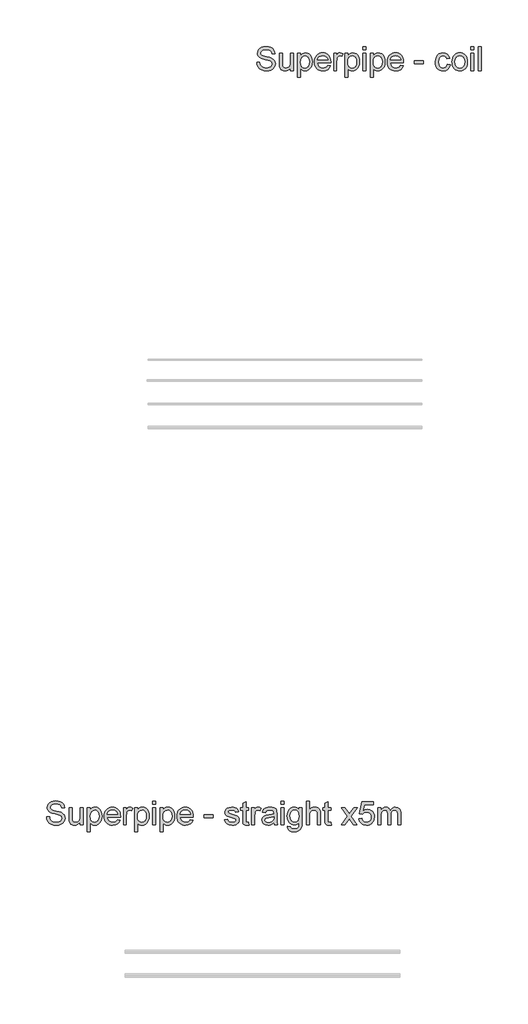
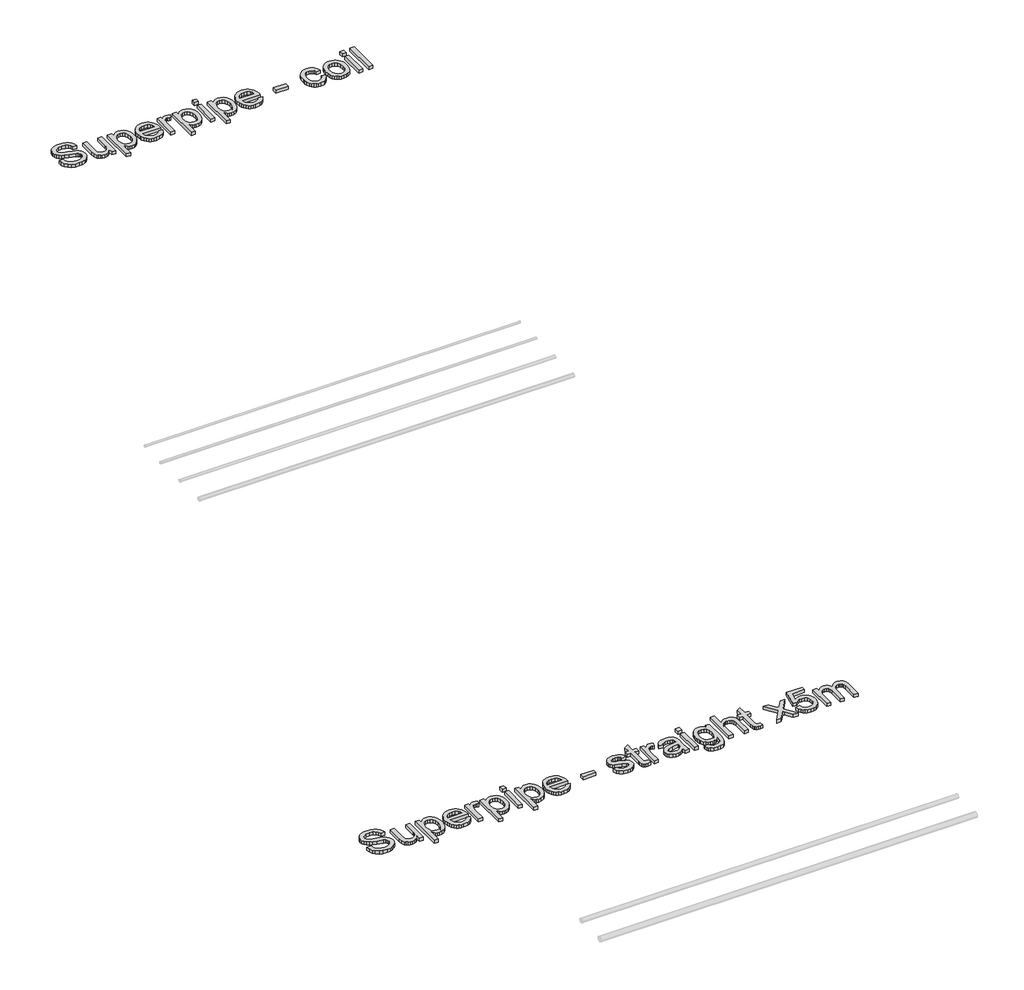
# One storey, part 12 of 26: 2 proxies.
"""IFC4 building model written with IfcOpenShell, lengths in millimetres."""

from ifc_helpers import new_model, si_unit, origin, origin_with_axes, place, context, project, spatial, polyline, outline, extrude, element, save

model = new_model("IFC4")

# Units and contexts
model_context = context("Model", 3, world=origin())
ifc_project = project(units=[si_unit("LENGTHUNIT", "METRE", prefix="MILLI")], contexts=[model_context])

# Site, building, storey
site = spatial("IfcSite", under=ifc_project)
building = spatial("IfcBuilding", under=site)
storey = spatial("IfcBuildingStorey", under=building, Name="Superpipe UFH", Elevation=0.0)

# Proxies
placement = place(None, origin())
element("IfcBuildingElementProxy", 1, Name="600mm Arial", ObjectType="600mm Arial", at=placement, inside=storey, context=model_context, shape_type="SweptSolid", body=[
    extrude(outline(polyline([(-3595.9258558, 23478.4252477), (-3558.2547395, 23478.4252477), (-3553.932126, 23457.5203533), (-3546.1146336, 23440.7173432), (-3533.9193455, 23427.3816208), (-3516.4633448, 23416.8785899), (-3495.1261891, 23410.0635759), (-3471.2874358, 23407.7919046), (-3450.299768, 23409.5117529), (-3431.9240623, 23414.6712979), (-3417.0340386, 23422.8382782), (-3406.5034165, 23433.5804325), (-3400.2402255, 23445.9136764), (-3398.1524952, 23458.8539255), (-3399.7159937, 23471.4630809), (-3404.4064891, 23482.361585), (-3413.9346328, 23491.6598025), (-3430.011076, 23499.4680978), (-3484.8622814, 23513.8522838), (-3520.8687317, 23523.3712304), (-3543.9073417, 23532.4303246), (-3562.6601264, 23545.1038593), (-3575.9498634, 23560.4629326), (-3583.8685234, 23578.1764507), (-3586.5080767, 23597.9133197), (-3583.243124, 23619.9770424), (-3573.4482659, 23640.550843), (-3557.3810197, 23657.9884495), (-3535.298903, 23670.6435902), (-3508.7930052, 23678.3415209), (-3479.4544161, 23680.9074978), (-3447.6694117, 23678.2219593), (-3419.8575329, 23670.1653436), (-3397.012061, 23656.9031976), (-3380.1262774, 23638.6010684), (-3369.4393054, 23616.39939), (-3365.1902684, 23591.4385966), (-3402.8613847, 23591.4385966), (-3409.7775662, 23613.9161865), (-3424.1985404, 23630.1397825), (-3446.7313126, 23639.9622318), (-3477.9828881, 23643.2363815), (-3509.9702276, 23639.99902), (-3531.9143886, 23630.2869353), (-3544.6063175, 23615.9947198), (-3548.8369604, 23599.0169657), (-3545.8387221, 23584.5408092), (-3536.8440074, 23572.897344), (-3515.580428, 23562.4862836), (-3475.3341378, 23551.8544939), (-3433.8002605, 23541.7561331), (-3408.6739202, 23532.9453594), (-3387.1988088, 23519.2785432), (-3372.2168145, 23502.4111538), (-3363.4152378, 23482.5271319), (-3360.4813789, 23459.8104187), (-3363.8566962, 23436.5878678), (-3373.9826481, 23414.7448743), (-3390.4453674, 23395.9461044), (-3412.8309868, 23381.8562239), (-3439.7507518, 23373.0546472), (-3469.8159078, 23370.1207883), (-3506.723669, 23373.2845735), (-3537.1015248, 23382.7759289), (-3561.298963, 23398.6316429), (-3579.6654716, 23420.8885036), (-3591.4560895, 23448.0014067), (-3595.9258558, 23478.4252477)])), origin_with_axes(), (0.0, 0.0, 1.0), 30.0),
    extrude(outline(polyline([(-3167.4169078, 23374.8296778), (-3167.4169078, 23412.8686761), (-3181.0469357, 23394.1664752), (-3196.9210438, 23380.8077603), (-3215.0392321, 23372.7925313), (-3235.4015005, 23370.1207883), (-3253.749615, 23371.9969865), (-3270.8285366, 23377.625581), (-3285.1575404, 23386.0868669), (-3295.2559011, 23396.4611392), (-3306.476302, 23424.1994416), (-3308.6835939, 23459.2218075), (-3308.6835939, 23596.1474861), (-3271.0124776, 23596.1474861), (-3271.0124776, 23476.9537197), (-3268.7316093, 23438.5468394), (-3263.2409705, 23425.7353489), (-3253.8323885, 23415.9956731), (-3241.1312626, 23409.8428467), (-3225.7629922, 23407.7919046), (-3209.5118051, 23409.888832), (-3194.3090816, 23416.1796141), (-3181.7735027, 23426.0848368), (-3173.5237489, 23439.025086), (-3168.9436181, 23456.7478011), (-3167.4169078, 23481.0004216), (-3167.4169078, 23596.1474861), (-3129.7457915, 23596.1474861), (-3129.7457915, 23374.8296778), (-3167.4169078, 23374.8296778)])), origin_with_axes(), (0.0, 0.0, 1.0), 30.0),
    extrude(outline(polyline([(-3077.9480066, 23290.0696661), (-3077.9480066, 23596.1474861), (-3040.2768903, 23596.1474861), (-3040.2768903, 23559.2121338), (-3027.9896316, 23577.4314896), (-3014.230845, 23590.4453152), (-2998.19119, 23598.2536106), (-2979.0613263, 23600.8563757), (-2953.5854981, 23597.2143439), (-2931.3102433, 23586.2882487), (-2913.1736609, 23568.7402775), (-2900.1138501, 23545.232618), (-2892.2227813, 23517.4759215), (-2889.592425, 23487.1808392), (-2892.5630722, 23454.9635734), (-2901.4750135, 23426.1492162), (-2916.0431405, 23402.2000983), (-2935.9823446, 23384.5785507), (-2959.2048956, 23373.7352289), (-2983.623063, 23370.1207883), (-3000.9411079, 23372.5396124), (-3016.4013488, 23379.7960848), (-3029.6359036, 23390.7497712), (-3040.2768903, 23404.2602375), (-3040.2768903, 23290.0696661), (-3077.9480066, 23290.0696661)]), holes=[polyline([(-3040.2768903, 23483.7227484), (-3036.2025972, 23449.9511813), (-3023.9797179, 23426.3331572), (-3005.9443031, 23412.4272177), (-2984.4324034, 23407.7919046), (-2962.5710158, 23412.5927646), (-2944.0757485, 23426.9953448), (-2931.4665931, 23451.4778915), (-2927.2635413, 23486.5186516), (-2931.3654256, 23520.1062777), (-2943.6710783, 23544.0553956), (-2961.678902, 23558.4027934), (-2982.887299, 23563.1852594), (-3004.1784695, 23558.0992908), (-3022.8760719, 23542.841385), (-3035.9266857, 23517.8897887), (-3040.2768903, 23483.7227484)])]), origin_with_axes(), (0.0, 0.0, 1.0), 30.0),
    extrude(outline(polyline([(-2692.2605228, 23440.7541314), (-2655.3251705, 23436.0452418), (-2668.6333017, 23408.2149689), (-2689.8692899, 23387.4112421), (-2718.5548884, 23374.4434017), (-2754.2118508, 23370.1207883), (-2777.5861531, 23371.9854902), (-2798.4128725, 23377.5795958), (-2816.6920092, 23386.9031051), (-2832.423563, 23399.9560181), (-2845.0741051, 23416.3750514), (-2854.1102066, 23435.7969215), (-2859.5318675, 23458.2216284), (-2861.3390878, 23483.649172), (-2859.5134734, 23509.9389391), (-2854.0366302, 23533.1109063), (-2844.9085582, 23553.1650735), (-2832.1292574, 23570.1014409), (-2816.4390903, 23583.5567249), (-2798.5784194, 23593.167642), (-2778.5472448, 23598.9341922), (-2756.3455664, 23600.8563757), (-2734.8589586, 23598.9387908), (-2715.4278915, 23593.1860361), (-2698.052365, 23583.5981116), (-2682.7323792, 23570.1750173), (-2670.2266906, 23553.2754381), (-2661.2940559, 23533.2580591), (-2655.9344751, 23510.1228801), (-2654.1479481, 23483.8699012), (-2654.3686773, 23473.7163581), (-2823.6679715, 23473.7163581), (-2817.1472631, 23445.5182032), (-2801.999722, 23424.7880528), (-2780.1383344, 23412.0409416), (-2753.4760868, 23407.7919046), (-2733.4265181, 23409.7600733), (-2716.5407345, 23415.6645793), (-2702.8187361, 23425.8733047), (-2692.2605228, 23440.7541314)]), holes=[polyline([(-2823.6679715, 23511.3874744), (-2691.8190644, 23511.3874744), (-2696.9142301, 23531.2898904), (-2706.9022262, 23545.5269236), (-2728.8647813, 23558.7706754), (-2756.4927192, 23563.1852594), (-2781.8857739, 23559.6627893), (-2802.8826388, 23549.095379), (-2817.4783569, 23532.6234626), (-2823.6679715, 23511.3874744)])]), origin_with_axes(), (0.0, 0.0, 1.0), 30.0),
    extrude(outline(polyline([(-2616.4768318, 23374.8296778), (-2616.4768318, 23596.1474861), (-2583.5146051, 23596.1474861), (-2583.5146051, 23563.4059886), (-2571.337711, 23582.3886995), (-2560.1173102, 23593.5723122), (-2548.8601211, 23599.0353598), (-2536.5728625, 23600.8563757), (-2517.8108807, 23597.9501079), (-2498.7545934, 23589.2313046), (-2511.3361576, 23555.4597375), (-2524.5799094, 23561.2538789), (-2537.8236613, 23563.1852594), (-2549.0716533, 23561.3274553), (-2559.1240288, 23555.7540431), (-2567.2450238, 23546.888087), (-2572.6988744, 23535.1526513), (-2577.2790052, 23514.1098012), (-2578.8057155, 23491.1539647), (-2578.8057155, 23374.8296778), (-2616.4768318, 23374.8296778)])), origin_with_axes(), (0.0, 0.0, 1.0), 30.0),
    extrude(outline(polyline([(-2475.2101457, 23290.0696661), (-2475.2101457, 23596.1474861), (-2437.5390294, 23596.1474861), (-2437.5390294, 23559.2121338), (-2425.2517707, 23577.4314896), (-2411.4929841, 23590.4453152), (-2395.4533291, 23598.2536106), (-2376.3234654, 23600.8563757), (-2350.8476372, 23597.2143439), (-2328.5723824, 23586.2882487), (-2310.4358, 23568.7402775), (-2297.3759892, 23545.232618), (-2289.4849204, 23517.4759215), (-2286.8545641, 23487.1808392), (-2289.8252113, 23454.9635734), (-2298.7371526, 23426.1492162), (-2313.3052796, 23402.2000983), (-2333.2444837, 23384.5785507), (-2356.4670347, 23373.7352289), (-2380.8852021, 23370.1207883), (-2398.203247, 23372.5396124), (-2413.6634879, 23379.7960848), (-2426.8980427, 23390.7497712), (-2437.5390294, 23404.2602375), (-2437.5390294, 23290.0696661), (-2475.2101457, 23290.0696661)]), holes=[polyline([(-2437.5390294, 23483.7227484), (-2433.4647363, 23449.9511813), (-2421.241857, 23426.3331572), (-2403.2064422, 23412.4272177), (-2381.6945425, 23407.7919046), (-2359.8331549, 23412.5927646), (-2341.3378876, 23426.9953448), (-2328.7287322, 23451.4778915), (-2324.5256804, 23486.5186516), (-2328.6275647, 23520.1062777), (-2340.9332174, 23544.0553956), (-2358.9410411, 23558.4027934), (-2380.1494381, 23563.1852594), (-2401.4406086, 23558.0992908), (-2420.138211, 23542.841385), (-2433.1888248, 23517.8897887), (-2437.5390294, 23483.7227484)])]), origin_with_axes(), (0.0, 0.0, 1.0), 30.0),
    extrude(outline(polyline([(-2244.4745583, 23374.8296778), (-2244.4745583, 23596.1474861), (-2206.803442, 23596.1474861), (-2206.803442, 23374.8296778), (-2244.4745583, 23374.8296778)])), origin_with_axes(), (0.0, 0.0, 1.0), 30.0),
    extrude(outline(polyline([(-2244.4745583, 23638.527492), (-2244.4745583, 23676.1986083), (-2206.803442, 23676.1986083), (-2206.803442, 23638.527492), (-2244.4745583, 23638.527492)])), origin_with_axes(), (0.0, 0.0, 1.0), 30.0),
    extrude(outline(polyline([(-2150.2967675, 23290.0696661), (-2150.2967675, 23596.1474861), (-2112.6256512, 23596.1474861), (-2112.6256512, 23559.2121338), (-2100.3383926, 23577.4314896), (-2086.579606, 23590.4453152), (-2070.539951, 23598.2536106), (-2051.4100872, 23600.8563757), (-2025.9342591, 23597.2143439), (-2003.6590043, 23586.2882487), (-1985.5224219, 23568.7402775), (-1972.4626111, 23545.232618), (-1964.5715423, 23517.4759215), (-1961.941186, 23487.1808392), (-1964.9118331, 23454.9635734), (-1973.8237744, 23426.1492162), (-1988.3919015, 23402.2000983), (-2008.3311056, 23384.5785507), (-2031.5536565, 23373.7352289), (-2055.971824, 23370.1207883), (-2073.2898689, 23372.5396124), (-2088.7501097, 23379.7960848), (-2101.9846645, 23390.7497712), (-2112.6256512, 23404.2602375), (-2112.6256512, 23290.0696661), (-2150.2967675, 23290.0696661)]), holes=[polyline([(-2112.6256512, 23483.7227484), (-2108.5513581, 23449.9511813), (-2096.3284788, 23426.3331572), (-2078.293064, 23412.4272177), (-2056.7811644, 23407.7919046), (-2034.9197768, 23412.5927646), (-2016.4245095, 23426.9953448), (-2003.8153541, 23451.4778915), (-1999.6123023, 23486.5186516), (-2003.7141866, 23520.1062777), (-2016.0198393, 23544.0553956), (-2034.027663, 23558.4027934), (-2055.23606, 23563.1852594), (-2076.5272305, 23558.0992908), (-2095.2248329, 23542.841385), (-2108.2754466, 23517.8897887), (-2112.6256512, 23483.7227484)])]), origin_with_axes(), (0.0, 0.0, 1.0), 30.0),
    extrude(outline(polyline([(-1764.6092838, 23440.7541314), (-1727.6739315, 23436.0452418), (-1740.9820626, 23408.2149689), (-1762.2180508, 23387.4112421), (-1790.9036494, 23374.4434017), (-1826.5606118, 23370.1207883), (-1849.934914, 23371.9854902), (-1870.7616335, 23377.5795958), (-1889.0407701, 23386.9031051), (-1904.772324, 23399.9560181), (-1917.4228661, 23416.3750514), (-1926.4589676, 23435.7969215), (-1931.8806285, 23458.2216284), (-1933.6878488, 23483.649172), (-1931.8622344, 23509.9389391), (-1926.3853912, 23533.1109063), (-1917.2573192, 23553.1650735), (-1904.4780184, 23570.1014409), (-1888.7878513, 23583.5567249), (-1870.9271804, 23593.167642), (-1850.8960058, 23598.9341922), (-1828.6943273, 23600.8563757), (-1807.2077196, 23598.9387908), (-1787.7766524, 23593.1860361), (-1770.401126, 23583.5981116), (-1755.0811401, 23570.1750173), (-1742.5754515, 23553.2754381), (-1733.6428168, 23533.2580591), (-1728.283236, 23510.1228801), (-1726.4967091, 23483.8699012), (-1726.7174383, 23473.7163581), (-1896.0167325, 23473.7163581), (-1889.4960241, 23445.5182032), (-1874.348483, 23424.7880528), (-1852.4870954, 23412.0409416), (-1825.8248478, 23407.7919046), (-1805.7752791, 23409.7600733), (-1788.8894955, 23415.6645793), (-1775.1674971, 23425.8733047), (-1764.6092838, 23440.7541314)]), holes=[polyline([(-1896.0167325, 23511.3874744), (-1764.1678254, 23511.3874744), (-1769.262991, 23531.2898904), (-1779.2509872, 23545.5269236), (-1801.2135423, 23558.7706754), (-1828.8414801, 23563.1852594), (-1854.2345349, 23559.6627893), (-1875.2313997, 23549.095379), (-1889.8271179, 23532.6234626), (-1896.0167325, 23511.3874744)])]), origin_with_axes(), (0.0, 0.0, 1.0), 30.0),
    extrude(outline(polyline([(-1589.9389125, 23464.2985791), (-1589.9389125, 23501.9696954), (-1472.216674, 23501.9696954), (-1472.216674, 23464.2985791), (-1589.9389125, 23464.2985791)])), origin_with_axes(), (0.0, 0.0, 1.0), 30.0),
    extrude(outline(polyline([(-1170.8477436, 23454.8808), (-1133.1766273, 23450.1719104), (-1143.6796582, 23416.6670577), (-1163.4165273, 23391.3475794), (-1190.5294303, 23375.4274861), (-1223.1605633, 23370.1207883), (-1244.2884861, 23371.9716946), (-1263.2321096, 23377.5244135), (-1279.9914338, 23386.7789449), (-1294.5664586, 23399.7352889), (-1306.3639743, 23416.1497237), (-1314.7907712, 23435.7785274), (-1319.8468494, 23458.6217), (-1321.5322088, 23484.6792416), (-1318.6535322, 23518.2024884), (-1310.0175024, 23547.255969), (-1295.4861635, 23570.7176432), (-1274.92156, 23587.465471), (-1250.3194516, 23597.5086495), (-1223.6755981, 23600.8563757), (-1191.8446084, 23596.2578507), (-1166.3963714, 23582.4622759), (-1148.1402274, 23560.2054152), (-1137.8855168, 23530.2230326), (-1175.5566331, 23525.5141431), (-1182.3900412, 23541.9492712), (-1193.0310279, 23553.7306921), (-1206.8909821, 23560.8216175), (-1223.3812925, 23563.1852594), (-1247.7258835, 23558.5315521), (-1267.0488853, 23544.5704304), (-1279.6580407, 23520.5477361), (-1283.8610925, 23485.7093112), (-1279.7500112, 23450.4018367), (-1267.4167673, 23426.296369), (-1248.4432534, 23412.4180207), (-1224.4113621, 23407.7919046), (-1204.9044193, 23410.6797783), (-1188.9107495, 23419.3433993), (-1177.2764814, 23434.0034968), (-1170.8477436, 23454.8808)])), origin_with_axes(), (0.0, 0.0, 1.0), 30.0),
    extrude(outline(polyline([(-1109.6321796, 23485.488582), (-1107.595033, 23514.1511879), (-1101.4835934, 23538.8498654), (-1091.2978606, 23559.5846143), (-1077.0378348, 23576.3554348), (-1062.6812399, 23587.0745964), (-1046.834723, 23594.7311405), (-1029.498284, 23599.3250669), (-1010.6719229, 23600.8563757), (-989.8888894, 23598.9916738), (-971.0970172, 23593.3975682), (-954.2963064, 23584.0740589), (-939.4867568, 23571.0211459), (-927.399534, 23554.6802875), (-918.7658034, 23535.4929422), (-913.5855651, 23513.4591099), (-911.858819, 23488.5787907), (-914.9122395, 23450.5213983), (-924.0725012, 23421.5506912), (-939.0728896, 23399.8548506), (-959.6466901, 23383.6220575), (-984.0832517, 23373.4961056), (-1010.6719229, 23370.1207883), (-1031.758459, 23371.9785924), (-1050.7250751, 23377.5520046), (-1067.5717712, 23386.841025), (-1082.2985473, 23399.8456535), (-1094.2570114, 23416.345161), (-1102.7987715, 23436.1188182), (-1107.9238276, 23459.1666252), (-1109.6321796, 23485.488582)]), holes=[polyline([(-1071.9610633, 23485.5621584), (-1067.6016616, 23451.4686945), (-1054.5234567, 23427.1792858), (-1034.84177, 23412.6387499), (-1010.6719229, 23407.7919046), (-986.6124404, 23412.666341), (-966.9675418, 23427.2896503), (-953.8893369, 23451.9009558), (-949.5299353, 23486.7393808), (-953.9169281, 23519.8395633), (-967.0779064, 23543.7978782), (-986.7503961, 23558.3384141), (-1010.6719229, 23563.1852594), (-1034.84177, 23558.3568082), (-1054.5234567, 23543.8714546), (-1067.6016616, 23519.6372282), (-1071.9610633, 23485.5621584)])]), origin_with_axes(), (0.0, 0.0, 1.0), 30.0),
    extrude(outline(polyline([(-869.4788131, 23374.8296778), (-869.4788131, 23596.1474861), (-831.8076968, 23596.1474861), (-831.8076968, 23374.8296778), (-869.4788131, 23374.8296778)])), origin_with_axes(), (0.0, 0.0, 1.0), 30.0),
    extrude(outline(polyline([(-869.4788131, 23638.527492), (-869.4788131, 23676.1986083), (-831.8076968, 23676.1986083), (-831.8076968, 23638.527492), (-869.4788131, 23638.527492)])), origin_with_axes(), (0.0, 0.0, 1.0), 30.0),
    extrude(outline(polyline([(-775.3010224, 23374.8296778), (-775.3010224, 23676.1986083), (-737.6299061, 23676.1986083), (-737.6299061, 23374.8296778), (-775.3010224, 23374.8296778)])), origin_with_axes(), (0.0, 0.0, 1.0), 30.0),
])
element("IfcBuildingElementProxy", 2, Name="600mm Arial", ObjectType="600mm Arial", at=placement, inside=storey, context=model_context, shape_type="SweptSolid", body=[
    extrude(outline(polyline([(-6274.1416083, 13880.9149134), (-6236.470492, 13880.9149134), (-6232.1478785, 13860.010019), (-6224.3303861, 13843.2070089), (-6212.135098, 13829.8712866), (-6194.6790973, 13819.3682556), (-6173.3419416, 13812.5532417), (-6149.5031883, 13810.2815703), (-6128.5155205, 13812.0014187), (-6110.1398148, 13817.1609636), (-6095.2497911, 13825.3279439), (-6084.719169, 13836.0700982), (-6078.455978, 13848.4033421), (-6076.3682477, 13861.3435913), (-6077.9317462, 13873.9527466), (-6082.6222416, 13884.8512508), (-6092.1503853, 13894.1494682), (-6108.2268285, 13901.9577635), (-6163.0780339, 13916.3419495), (-6199.0844842, 13925.8608962), (-6222.1230942, 13934.9199903), (-6240.8758789, 13947.593525), (-6254.165616, 13962.9525983), (-6262.0842759, 13980.6661164), (-6264.7238292, 14000.4029854), (-6261.4588765, 14022.4667081), (-6251.6640184, 14043.0405087), (-6235.5967722, 14060.4781153), (-6213.5146555, 14073.1332559), (-6187.0087577, 14080.8311866), (-6157.6701686, 14083.3971636), (-6125.8851642, 14080.711625), (-6098.0732854, 14072.6550093), (-6075.2278135, 14059.3928634), (-6058.3420299, 14041.0907341), (-6047.655058, 14018.8890557), (-6043.4060209, 13993.9282623), (-6081.0771372, 13993.9282623), (-6087.9933187, 14016.4058522), (-6102.4142929, 14032.6294482), (-6124.9470651, 14042.4518975), (-6156.1986406, 14045.7260472), (-6188.1859801, 14042.4886857), (-6210.1301411, 14032.776601), (-6222.82207, 14018.4843855), (-6227.0527129, 14001.5066314), (-6224.0544746, 13987.0304749), (-6215.0597599, 13975.3870098), (-6193.7961805, 13964.9759493), (-6153.5498903, 13954.3441596), (-6112.016013, 13944.2457989), (-6086.8896727, 13935.4350251), (-6065.4145613, 13921.768209), (-6050.432567, 13904.9008195), (-6041.6309903, 13885.0167977), (-6038.6971314, 13862.3000845), (-6042.0724487, 13839.0775335), (-6052.1984006, 13817.23454), (-6068.6611199, 13798.4357701), (-6091.0467393, 13784.3458897), (-6117.9665043, 13775.5443129), (-6148.0316603, 13772.610454), (-6184.9394215, 13775.7742392), (-6215.3172773, 13785.2655947), (-6239.5147155, 13801.1213087), (-6257.8812241, 13823.3781694), (-6269.671842, 13850.4910724), (-6274.1416083, 13880.9149134)])), origin_with_axes(), (0.0, 0.0, 1.0), 30.0),
    extrude(outline(polyline([(-5845.6326603, 13777.3193436), (-5845.6326603, 13815.3583419), (-5859.2626882, 13796.6561409), (-5875.1367963, 13783.297426), (-5893.2549846, 13775.282197), (-5913.617253, 13772.610454), (-5931.9653675, 13774.4866522), (-5949.0442892, 13780.1152467), (-5963.3732929, 13788.5765326), (-5973.4716536, 13798.9508049), (-5984.6920545, 13826.6891073), (-5986.8993465, 13861.7114733), (-5986.8993465, 13998.6371519), (-5949.2282301, 13998.6371519), (-5949.2282301, 13879.4433854), (-5946.9473618, 13841.0365051), (-5941.456723, 13828.2250146), (-5932.048141, 13818.4853388), (-5919.3470151, 13812.3325125), (-5903.9787447, 13810.2815703), (-5887.7275576, 13812.3784977), (-5872.5248342, 13818.6692798), (-5859.9892552, 13828.5745025), (-5851.7395014, 13841.5147517), (-5847.1593706, 13859.2374668), (-5845.6326603, 13883.4900874), (-5845.6326603, 13998.6371519), (-5807.961544, 13998.6371519), (-5807.961544, 13777.3193436), (-5845.6326603, 13777.3193436)])), origin_with_axes(), (0.0, 0.0, 1.0), 30.0),
    extrude(outline(polyline([(-5756.1637591, 13692.5593319), (-5756.1637591, 13998.6371519), (-5718.4926428, 13998.6371519), (-5718.4926428, 13961.7017995), (-5706.2053841, 13979.9211554), (-5692.4465975, 13992.9349809), (-5676.4069425, 14000.7432763), (-5657.2770788, 14003.3460414), (-5631.8012506, 13999.7040096), (-5609.5259958, 13988.7779144), (-5591.3894134, 13971.2299432), (-5578.3296026, 13947.7222837), (-5570.4385338, 13919.9655872), (-5567.8081776, 13889.6705049), (-5570.7788247, 13857.4532392), (-5579.690766, 13828.6388819), (-5594.258893, 13804.689764), (-5614.1980971, 13787.0682164), (-5637.4206481, 13776.2248946), (-5661.8388155, 13772.610454), (-5679.1568604, 13775.0292781), (-5694.6171013, 13782.2857505), (-5707.8516561, 13793.2394369), (-5718.4926428, 13806.7499032), (-5718.4926428, 13692.5593319), (-5756.1637591, 13692.5593319)]), holes=[polyline([(-5718.4926428, 13886.2124141), (-5714.4183497, 13852.440847), (-5702.1954704, 13828.8228229), (-5684.1600556, 13814.9168835), (-5662.6481559, 13810.2815703), (-5640.7867683, 13815.0824304), (-5622.291501, 13829.4850105), (-5609.6823457, 13853.9675573), (-5605.4792939, 13889.0083173), (-5609.5811781, 13922.5959435), (-5621.8868308, 13946.5450613), (-5639.8946545, 13960.8924592), (-5661.1030515, 13965.6749251), (-5682.394222, 13960.5889565), (-5701.0918244, 13945.3310508), (-5714.1424382, 13920.3794544), (-5718.4926428, 13886.2124141)])]), origin_with_axes(), (0.0, 0.0, 1.0), 30.0),
    extrude(outline(polyline([(-5370.4762753, 13843.2437971), (-5333.540923, 13838.5349076), (-5346.8490542, 13810.7046346), (-5368.0850424, 13789.9009078), (-5396.7706409, 13776.9330675), (-5432.4276033, 13772.610454), (-5455.8019056, 13774.4751559), (-5476.628625, 13780.0692615), (-5494.9077617, 13789.3927708), (-5510.6393155, 13802.4456838), (-5523.2898576, 13818.8647171), (-5532.3259591, 13838.2865872), (-5537.74762, 13860.7112941), (-5539.5548403, 13886.1388377), (-5537.7292259, 13912.4286048), (-5532.2523827, 13935.600572), (-5523.1243107, 13955.6547393), (-5510.3450099, 13972.5911066), (-5494.6548428, 13986.0463906), (-5476.7941719, 13995.6573077), (-5456.7629973, 14001.423858), (-5434.5613189, 14003.3460414), (-5413.0747111, 14001.4284565), (-5393.643644, 13995.6757018), (-5376.2681175, 13986.0877773), (-5360.9481317, 13972.664683), (-5348.4424431, 13955.7651039), (-5339.5098084, 13935.7477248), (-5334.1502276, 13912.6125458), (-5332.3637006, 13886.3595669), (-5332.5844298, 13876.2060239), (-5501.883724, 13876.2060239), (-5495.3630157, 13848.0078689), (-5480.2154745, 13827.2777185), (-5458.3540869, 13814.5306074), (-5431.6918393, 13810.2815703), (-5411.6422706, 13812.249739), (-5394.756487, 13818.154245), (-5381.0344886, 13828.3629704), (-5370.4762753, 13843.2437971)]), holes=[polyline([(-5501.883724, 13913.8771402), (-5370.0348169, 13913.8771402), (-5375.1299826, 13933.7795561), (-5385.1179787, 13948.0165893), (-5407.0805339, 13961.2603412), (-5434.7084717, 13965.6749251), (-5460.1015264, 13962.152455), (-5481.0983913, 13951.5850447), (-5495.6941094, 13935.1131283), (-5501.883724, 13913.8771402)])]), origin_with_axes(), (0.0, 0.0, 1.0), 30.0),
    extrude(outline(polyline([(-5294.6925843, 13777.3193436), (-5294.6925843, 13998.6371519), (-5261.7303576, 13998.6371519), (-5261.7303576, 13965.8956543), (-5249.5534635, 13984.8783652), (-5238.3330627, 13996.0619779), (-5227.0758736, 14001.5250255), (-5214.788615, 14003.3460414), (-5196.0266332, 14000.4397736), (-5176.9703459, 13991.7209704), (-5189.5519101, 13957.9494032), (-5202.7956619, 13963.7435446), (-5216.0394138, 13965.6749251), (-5227.2874058, 13963.817121), (-5237.3397813, 13958.2437088), (-5245.4607763, 13949.3777527), (-5250.9146269, 13937.6423171), (-5255.4947577, 13916.5994669), (-5257.021468, 13893.6436304), (-5257.021468, 13777.3193436), (-5294.6925843, 13777.3193436)])), origin_with_axes(), (0.0, 0.0, 1.0), 30.0),
    extrude(outline(polyline([(-5153.4258982, 13692.5593319), (-5153.4258982, 13998.6371519), (-5115.7547819, 13998.6371519), (-5115.7547819, 13961.7017995), (-5103.4675232, 13979.9211554), (-5089.7087366, 13992.9349809), (-5073.6690816, 14000.7432763), (-5054.5392179, 14003.3460414), (-5029.0633897, 13999.7040096), (-5006.7881349, 13988.7779144), (-4988.6515525, 13971.2299432), (-4975.5917417, 13947.7222837), (-4967.7006729, 13919.9655872), (-4965.0703167, 13889.6705049), (-4968.0409638, 13857.4532392), (-4976.9529051, 13828.6388819), (-4991.5210321, 13804.689764), (-5011.4602362, 13787.0682164), (-5034.6827872, 13776.2248946), (-5059.1009546, 13772.610454), (-5076.4189995, 13775.0292781), (-5091.8792404, 13782.2857505), (-5105.1137952, 13793.2394369), (-5115.7547819, 13806.7499032), (-5115.7547819, 13692.5593319), (-5153.4258982, 13692.5593319)]), holes=[polyline([(-5115.7547819, 13886.2124141), (-5111.6804888, 13852.440847), (-5099.4576095, 13828.8228229), (-5081.4221947, 13814.9168835), (-5059.910295, 13810.2815703), (-5038.0489074, 13815.0824304), (-5019.5536401, 13829.4850105), (-5006.9444848, 13853.9675573), (-5002.741433, 13889.0083173), (-5006.8433172, 13922.5959435), (-5019.1489699, 13946.5450613), (-5037.1567936, 13960.8924592), (-5058.3651906, 13965.6749251), (-5079.6563611, 13960.5889565), (-5098.3539635, 13945.3310508), (-5111.4045773, 13920.3794544), (-5115.7547819, 13886.2124141)])]), origin_with_axes(), (0.0, 0.0, 1.0), 30.0),
    extrude(outline(polyline([(-4922.6903108, 13777.3193436), (-4922.6903108, 13998.6371519), (-4885.0191945, 13998.6371519), (-4885.0191945, 13777.3193436), (-4922.6903108, 13777.3193436)])), origin_with_axes(), (0.0, 0.0, 1.0), 30.0),
    extrude(outline(polyline([(-4922.6903108, 14041.0171577), (-4922.6903108, 14078.688274), (-4885.0191945, 14078.688274), (-4885.0191945, 14041.0171577), (-4922.6903108, 14041.0171577)])), origin_with_axes(), (0.0, 0.0, 1.0), 30.0),
    extrude(outline(polyline([(-4828.51252, 13692.5593319), (-4828.51252, 13998.6371519), (-4790.8414037, 13998.6371519), (-4790.8414037, 13961.7017995), (-4778.5541451, 13979.9211554), (-4764.7953585, 13992.9349809), (-4748.7557035, 14000.7432763), (-4729.6258397, 14003.3460414), (-4704.1500116, 13999.7040096), (-4681.8747568, 13988.7779144), (-4663.7381744, 13971.2299432), (-4650.6783636, 13947.7222837), (-4642.7872948, 13919.9655872), (-4640.1569385, 13889.6705049), (-4643.1275856, 13857.4532392), (-4652.039527, 13828.6388819), (-4666.607654, 13804.689764), (-4686.5468581, 13787.0682164), (-4709.7694091, 13776.2248946), (-4734.1875765, 13772.610454), (-4751.5056214, 13775.0292781), (-4766.9658623, 13782.2857505), (-4780.200417, 13793.2394369), (-4790.8414037, 13806.7499032), (-4790.8414037, 13692.5593319), (-4828.51252, 13692.5593319)]), holes=[polyline([(-4790.8414037, 13886.2124141), (-4786.7671106, 13852.440847), (-4774.5442314, 13828.8228229), (-4756.5088165, 13814.9168835), (-4734.9969169, 13810.2815703), (-4713.1355293, 13815.0824304), (-4694.640262, 13829.4850105), (-4682.0311066, 13853.9675573), (-4677.8280548, 13889.0083173), (-4681.9299391, 13922.5959435), (-4694.2355918, 13946.5450613), (-4712.2434155, 13960.8924592), (-4733.4518125, 13965.6749251), (-4754.742983, 13960.5889565), (-4773.4405854, 13945.3310508), (-4786.4911991, 13920.3794544), (-4790.8414037, 13886.2124141)])]), origin_with_axes(), (0.0, 0.0, 1.0), 30.0),
    extrude(outline(polyline([(-4442.8250363, 13843.2437971), (-4405.889684, 13838.5349076), (-4419.1978152, 13810.7046346), (-4440.4338033, 13789.9009078), (-4469.1194019, 13776.9330675), (-4504.7763643, 13772.610454), (-4528.1506666, 13774.4751559), (-4548.977386, 13780.0692615), (-4567.2565226, 13789.3927708), (-4582.9880765, 13802.4456838), (-4595.6386186, 13818.8647171), (-4604.6747201, 13838.2865872), (-4610.096381, 13860.7112941), (-4611.9036013, 13886.1388377), (-4610.0779869, 13912.4286048), (-4604.6011437, 13935.600572), (-4595.4730717, 13955.6547393), (-4582.6937709, 13972.5911066), (-4567.0036038, 13986.0463906), (-4549.1429329, 13995.6573077), (-4529.1117583, 14001.423858), (-4506.9100799, 14003.3460414), (-4485.4234721, 14001.4284565), (-4465.9924049, 13995.6757018), (-4448.6168785, 13986.0877773), (-4433.2968926, 13972.664683), (-4420.7912041, 13955.7651039), (-4411.8585694, 13935.7477248), (-4406.4989885, 13912.6125458), (-4404.7124616, 13886.3595669), (-4404.9331908, 13876.2060239), (-4574.232485, 13876.2060239), (-4567.7117766, 13848.0078689), (-4552.5642355, 13827.2777185), (-4530.7028479, 13814.5306074), (-4504.0406003, 13810.2815703), (-4483.9910316, 13812.249739), (-4467.105248, 13818.154245), (-4453.3832496, 13828.3629704), (-4442.8250363, 13843.2437971)]), holes=[polyline([(-4574.232485, 13913.8771402), (-4442.3835779, 13913.8771402), (-4447.4787435, 13933.7795561), (-4457.4667397, 13948.0165893), (-4479.4292948, 13961.2603412), (-4507.0572327, 13965.6749251), (-4532.4502874, 13962.152455), (-4553.4471522, 13951.5850447), (-4568.0428704, 13935.1131283), (-4574.232485, 13913.8771402)])]), origin_with_axes(), (0.0, 0.0, 1.0), 30.0),
    extrude(outline(polyline([(-4268.154665, 13866.7882448), (-4268.154665, 13904.4593611), (-4150.4324265, 13904.4593611), (-4150.4324265, 13866.7882448), (-4268.154665, 13866.7882448)])), origin_with_axes(), (0.0, 0.0, 1.0), 30.0),
    extrude(outline(polyline([(-4004.4568508, 13843.2437971), (-3966.7857345, 13847.9526866), (-3960.8444403, 13831.8394553), (-3949.348128, 13819.993655), (-3932.2232211, 13812.7095915), (-3909.3961433, 13810.2815703), (-3886.844977, 13812.5072564), (-3870.989263, 13819.1843146), (-3861.6082721, 13828.8596111), (-3858.4812752, 13840.0800119), (-3861.6266662, 13849.681732), (-3871.0628394, 13857.0025837), (-3909.8376017, 13867.744738), (-3966.5650053, 13886.1756259), (-3980.9216002, 13895.4370552), (-3991.3234636, 13907.6967227), (-3997.6418369, 13922.1728792), (-3999.7479613, 13938.0837755), (-3998.0557041, 13952.6794936), (-3992.9789326, 13966.1531717), (-3984.9774992, 13977.9713808), (-3974.5112564, 13987.600692), (-3950.5621386, 13998.7475165), (-3918.1517348, 14003.3460414), (-3893.6323998, 14001.4974344), (-3872.3136382, 13995.9516133), (-3855.1703372, 13987.2512041), (-3843.1773842, 13975.9388328), (-3835.2311331, 13961.1775677), (-3830.2279379, 13942.1304774), (-3867.8990542, 13937.4215879), (-3872.653929, 13949.2765852), (-3882.0625111, 13958.2069206), (-3896.2167708, 13963.807924), (-3915.2086788, 13965.6749251), (-3936.8401401, 13963.8906974), (-3951.2611143, 13958.5380144), (-3959.3729123, 13950.8124925), (-3962.076845, 13941.9097482), (-3957.5886847, 13930.9468648), (-3943.5355924, 13922.6327317), (-3911.0884005, 13914.6129042), (-3855.7957366, 13896.880992), (-3841.1908214, 13888.401312), (-3830.1175733, 13876.7946351), (-3823.1370125, 13862.024173), (-3820.8101589, 13844.0531375), (-3823.5416827, 13825.4750967), (-3831.7362541, 13808.000702), (-3845.0811735, 13793.0003136), (-3863.2637411, 13781.8442921), (-3885.2262962, 13774.9189135), (-3909.9111781, 13772.610454), (-3947.8949941, 13777.0618262), (-3975.6149024, 13790.4159426), (-3994.1193668, 13812.5256505), (-4004.4568508, 13843.2437971)])), origin_with_axes(), (0.0, 0.0, 1.0), 30.0),
    extrude(outline(polyline([(-3698.3790309, 13808.736466), (-3693.6701413, 13776.2156976), (-3721.8499022, 13772.610454), (-3739.9313022, 13774.1739525), (-3753.4141773, 13778.8644479), (-3762.942321, 13786.0933291), (-3769.1595267, 13795.2719849), (-3772.5808293, 13811.0357284), (-3773.7212635, 13838.0198728), (-3773.7212635, 13960.9660356), (-3801.9746007, 13960.9660356), (-3801.9746007, 13998.6371519), (-3773.7212635, 13998.6371519), (-3773.7212635, 14052.4214996), (-3736.0501472, 14074.5679957), (-3736.0501472, 13998.6371519), (-3698.3790309, 13998.6371519), (-3698.3790309, 13960.9660356), (-3736.0501472, 13960.9660356), (-3736.0501472, 13839.1235188), (-3734.0635844, 13819.6993494), (-3727.6256495, 13812.8199561), (-3714.7865678, 13810.2815703), (-3698.3790309, 13808.736466)])), origin_with_axes(), (0.0, 0.0, 1.0), 30.0),
    extrude(outline(polyline([(-3660.7079146, 13777.3193436), (-3660.7079146, 13998.6371519), (-3627.7456878, 13998.6371519), (-3627.7456878, 13965.8956543), (-3615.5687937, 13984.8783652), (-3604.3483929, 13996.0619779), (-3593.0912038, 14001.5250255), (-3580.8039452, 14003.3460414), (-3562.0419634, 14000.4397736), (-3542.9856761, 13991.7209704), (-3555.5672403, 13957.9494032), (-3568.8109922, 13963.7435446), (-3582.054744, 13965.6749251), (-3593.302736, 13963.817121), (-3603.3551115, 13958.2437088), (-3611.4761065, 13949.3777527), (-3616.9299571, 13937.6423171), (-3621.510088, 13916.5994669), (-3623.0367982, 13893.6436304), (-3623.0367982, 13777.3193436), (-3660.7079146, 13777.3193436)])), origin_with_axes(), (0.0, 0.0, 1.0), 30.0),
    extrude(outline(polyline([(-3378.1745423, 13805.5726808), (-3396.1731689, 13790.1400311), (-3414.7052244, 13780.0416703), (-3434.1937731, 13774.4682581), (-3455.0618793, 13772.610454), (-3486.543381, 13777.0802203), (-3509.7659319, 13790.489519), (-3524.0857386, 13810.8517874), (-3528.8590075, 13836.1804628), (-3527.0563857, 13851.7970535), (-3521.6485204, 13865.9789044), (-3513.3067961, 13878.1190102), (-3502.7025976, 13887.6103657), (-3476.3254586, 13899.9712008), (-3443.7311138, 13905.6365835), (-3405.2138689, 13911.5962718), (-3378.3952715, 13918.5860297), (-3378.1745423, 13926.9737392), (-3380.7681103, 13943.7859464), (-3388.5488145, 13954.785618), (-3405.9496329, 13962.9525983), (-3430.1930564, 13965.6749251), (-3452.6338581, 13963.8631063), (-3468.3056311, 13958.4276498), (-3478.992603, 13948.3752743), (-3486.4790016, 13932.7126983), (-3524.1501179, 13937.4215879), (-3517.6110155, 13958.0229796), (-3507.8529456, 13974.2097874), (-3493.9654002, 13986.5890165), (-3475.0378716, 13995.7676723), (-3451.888897, 14001.4514491), (-3425.337014, 14003.3460414), (-3399.8703829, 14001.6721783), (-3379.6828584, 13996.6505891), (-3364.4617409, 13989.0998111), (-3353.8943306, 13979.8383819), (-3346.8861786, 13968.3880548), (-3342.3428359, 13954.2705832), (-3340.503426, 13921.3083565), (-3340.503426, 13874.4401903), (-3338.5904396, 13808.9939833), (-3331.0856469, 13777.3193436), (-3368.7567632, 13777.3193436), (-3378.1745423, 13805.5726808)]), holes=[polyline([(-3378.1745423, 13880.9149134), (-3438.9486479, 13869.3634188), (-3471.3590516, 13863.2565776), (-3486.0375432, 13853.3237638), (-3491.1878912, 13838.8292132), (-3488.382791, 13827.6272064), (-3479.9674903, 13818.4485506), (-3466.1259303, 13812.3233154), (-3447.0420518, 13810.2815703), (-3426.808542, 13812.5348476), (-3408.9294771, 13819.2946792), (-3394.4349264, 13829.2550842), (-3384.3549598, 13841.1100815), (-3379.8851935, 13853.3237638), (-3378.3952715, 13870.2463355), (-3378.1745423, 13880.9149134)])]), origin_with_axes(), (0.0, 0.0, 1.0), 30.0),
    extrude(outline(polyline([(-3288.705641, 13777.3193436), (-3288.705641, 13998.6371519), (-3251.0345247, 13998.6371519), (-3251.0345247, 13777.3193436), (-3288.705641, 13777.3193436)])), origin_with_axes(), (0.0, 0.0, 1.0), 30.0),
    extrude(outline(polyline([(-3288.705641, 14041.0171577), (-3288.705641, 14078.688274), (-3251.0345247, 14078.688274), (-3251.0345247, 14041.0171577), (-3288.705641, 14041.0171577)])), origin_with_axes(), (0.0, 0.0, 1.0), 30.0),
    extrude(outline(polyline([(-3203.9456293, 13758.4837854), (-3166.274513, 13753.7748959), (-3162.1174465, 13742.002672), (-3154.0608308, 13733.9092681), (-3138.2235109, 13727.618486), (-3117.4933605, 13725.5215586), (-3095.3836526, 13727.8943975), (-3078.9393274, 13735.0129141), (-3067.5349855, 13746.417256), (-3060.5452276, 13761.6475706), (-3057.9700537, 13805.5726808), (-3070.5056326, 13793.2118458), (-3084.4943455, 13784.3826779), (-3099.9361923, 13779.0851771), (-3116.8311729, 13777.3193436), (-3137.4854477, 13779.3748842), (-3155.6703145, 13785.5415062), (-3171.3857735, 13795.8192094), (-3184.6318246, 13810.2079939), (-3195.1417533, 13827.4708566), (-3202.6488453, 13846.3707941), (-3207.1531005, 13866.9078064), (-3208.6545189, 13889.0818937), (-3205.9597833, 13919.4965377), (-3197.8755764, 13947.4647663), (-3184.6870069, 13971.1655639), (-3166.6791832, 13988.7779144), (-3144.4683078, 13999.7040096), (-3118.6705829, 14003.3460414), (-3101.0536338, 14001.2859022), (-3085.0645626, 13995.1054847), (-3070.7033692, 13984.8047888), (-3057.9700537, 13970.3838146), (-3057.9700537, 13998.6371519), (-3020.2989374, 13998.6371519), (-3020.2989374, 13807.5592436), (-3022.8741113, 13763.4409953), (-3030.5996332, 13734.3875147), (-3043.9077644, 13715.1196952), (-3063.2307662, 13700.3584302), (-3088.1455743, 13690.9774393), (-3118.2291245, 13687.8504423), (-3153.2790816, 13692.2558292), (-3180.8794282, 13705.4719899), (-3191.2743939, 13715.3933075), (-3198.5837493, 13727.5357126), (-3202.8074944, 13741.8992052), (-3203.9456293, 13758.4837854)]), holes=[polyline([(-3170.9834026, 13891.6570677), (-3166.9642918, 13857.1037513), (-3154.9069594, 13833.3477714), (-3136.7795741, 13819.5797878), (-3114.5503045, 13814.9904599), (-3092.4865819, 13819.5521966), (-3074.267226, 13833.2374068), (-3062.0443468, 13856.689884), (-3057.9700537, 13890.5534217), (-3062.1639084, 13923.2121458), (-3074.7454726, 13946.7290023), (-3093.2315429, 13960.9384444), (-3115.1389157, 13965.6749251), (-3136.6508154, 13961.0120208), (-3154.6862302, 13947.0233079), (-3166.9091095, 13923.8559393), (-3170.9834026, 13891.6570677)])]), origin_with_axes(), (0.0, 0.0, 1.0), 30.0),
    extrude(outline(polyline([(-2963.7922629, 13777.3193436), (-2963.7922629, 14078.688274), (-2926.1211466, 14078.688274), (-2926.1211466, 13967.8822171), (-2912.284185, 13983.3976402), (-2896.7457693, 13994.4800853), (-2879.5058993, 14001.1295524), (-2860.564575, 14003.3460414), (-2837.8110736, 14000.9272173), (-2818.2581456, 13993.6707449), (-2802.8622841, 13982.1468414), (-2792.5799823, 13966.9257239), (-2786.7858409, 13946.0116325), (-2784.8544604, 13917.4088073), (-2784.8544604, 13777.3193436), (-2822.5255767, 13777.3193436), (-2822.5255767, 13913.5092582), (-2825.523815, 13937.0904941), (-2834.5185298, 13953.2405137), (-2849.0130804, 13962.5663222), (-2868.5108261, 13965.6749251), (-2884.4309195, 13963.5779977), (-2899.3761255, 13957.2872156), (-2911.7553547, 13947.409584), (-2919.9775173, 13934.5521083), (-2924.5852393, 13917.4639896), (-2926.1211466, 13894.8944292), (-2926.1211466, 13777.3193436), (-2963.7922629, 13777.3193436)])), origin_with_axes(), (0.0, 0.0, 1.0), 30.0),
    extrude(outline(polyline([(-2653.0055534, 13808.736466), (-2648.2966638, 13776.2156976), (-2676.4764247, 13772.610454), (-2694.5578247, 13774.1739525), (-2708.0406998, 13778.8644479), (-2717.5688435, 13786.0933291), (-2723.7860492, 13795.2719849), (-2727.2073518, 13811.0357284), (-2728.347786, 13838.0198728), (-2728.347786, 13960.9660356), (-2756.6011232, 13960.9660356), (-2756.6011232, 13998.6371519), (-2728.347786, 13998.6371519), (-2728.347786, 14052.4214996), (-2690.6766697, 14074.5679957), (-2690.6766697, 13998.6371519), (-2653.0055534, 13998.6371519), (-2653.0055534, 13960.9660356), (-2690.6766697, 13960.9660356), (-2690.6766697, 13839.1235188), (-2688.6901069, 13819.6993494), (-2682.252172, 13812.8199561), (-2669.4130904, 13810.2815703), (-2653.0055534, 13808.736466)])), origin_with_axes(), (0.0, 0.0, 1.0), 30.0),
    extrude(outline(polyline([(-2521.1566463, 13777.3193436), (-2440.6640657, 13888.5668589), (-2516.4477568, 13998.6371519), (-2471.124695, 13998.6371519), (-2434.5572246, 13945.6621446), (-2417.4875001, 13920.6461689), (-2402.6986438, 13941.1004078), (-2361.054402, 13998.6371519), (-2315.7313402, 13998.6371519), (-2395.3410039, 13888.5668589), (-2318.6743961, 13777.3193436), (-2363.997458, 13777.3193436), (-2410.1298602, 13844.2002903), (-2418.591146, 13856.4139725), (-2475.8335845, 13777.3193436), (-2521.1566463, 13777.3193436)])), origin_with_axes(), (0.0, 0.0, 1.0), 30.0),
    extrude(outline(polyline([(-2295.1299485, 13857.3704657), (-2257.4588322, 13862.0793553), (-2250.5426506, 13839.4638096), (-2238.4761212, 13823.2678048), (-2221.3144261, 13813.5281289), (-2199.1127477, 13810.2815703), (-2172.1102093, 13814.7973218), (-2151.8766995, 13828.3445763), (-2139.239953, 13849.3598353), (-2135.0277042, 13876.2796003), (-2138.9732386, 13901.6266697), (-2150.8098417, 13921.0140509), (-2170.6294842, 13933.3197036), (-2198.5241365, 13937.4215879), (-2216.7986746, 13935.784513), (-2231.5967279, 13930.8732884), (-2252.7499426, 13913.8771402), (-2290.4210589, 13918.5860297), (-2257.4588322, 14073.9793845), (-2111.4832565, 14073.9793845), (-2111.4832565, 14036.3082682), (-2226.998203, 14036.3082682), (-2243.1114343, 13953.3140901), (-2216.2008664, 13969.6480506), (-2188.0027115, 13975.0927042), (-2169.6568962, 13973.4050455), (-2152.8056016, 13968.3420696), (-2137.4488275, 13959.9037763), (-2123.5865741, 13948.0901657), (-2112.1109551, 13933.6232063), (-2103.9140844, 13917.2248663), (-2098.995962, 13898.8951459), (-2097.3565879, 13878.634045), (-2103.2610939, 13840.9629287), (-2110.6417264, 13824.1691157), (-2120.9746119, 13808.736466), (-2136.6279908, 13792.9313357), (-2154.8933319, 13781.641957), (-2175.7706351, 13774.8683298), (-2199.2599005, 13772.610454), (-2236.2596322, 13778.4137925), (-2251.938303, 13785.6679656), (-2265.736177, 13795.8238079), (-2277.2163946, 13808.3754817), (-2285.9420956, 13822.8171493), (-2295.1299485, 13857.3704657)])), origin_with_axes(), (0.0, 0.0, 1.0), 30.0),
    extrude(outline(polyline([(-2054.976582, 13777.3193436), (-2054.976582, 13998.6371519), (-2017.3054657, 13998.6371519), (-2017.3054657, 13962.2168343), (-2005.9747002, 13978.9462681), (-1991.4065732, 13992.0520641), (-1974.0977254, 14000.5225471), (-1954.5447973, 14003.3460414), (-1933.5939177, 14000.4673648), (-1916.8001046, 13991.831335), (-1904.2553286, 13978.008169), (-1896.0515601, 13959.568084), (-1882.3203646, 13978.7209403), (-1866.6577887, 13992.401552), (-1849.0638323, 14000.6099191), (-1829.5384954, 14003.3460414), (-1801.2207788, 13998.7935017), (-1780.2790962, 13985.1358826), (-1767.338847, 13962.0053022), (-1763.0254306, 13929.0338784), (-1763.0254306, 13777.3193436), (-1800.6965469, 13777.3193436), (-1800.6965469, 13912.8470706), (-1804.1914259, 13944.3009812), (-1809.1026505, 13952.9737992), (-1816.8465665, 13959.7888132), (-1826.8069715, 13964.2033971), (-1838.3676632, 13965.6749251), (-1858.7759169, 13961.9041346), (-1875.4133802, 13950.5917633), (-1886.4774312, 13930.9652589), (-1890.1654482, 13902.2520691), (-1890.1654482, 13777.3193436), (-1927.8365645, 13777.3193436), (-1927.8365645, 13917.0409253), (-1930.0162653, 13938.3412929), (-1936.5553678, 13953.5348193), (-1948.0608772, 13962.6398986), (-1965.1397988, 13965.6749251), (-1979.6527435, 13963.6515741), (-1993.025254, 13957.5815212), (-2004.0617139, 13947.6119191), (-2011.5665066, 13933.8899207), (-2015.8707259, 13914.8520275), (-2017.3054657, 13888.9347409), (-2017.3054657, 13777.3193436), (-2054.976582, 13777.3193436)])), origin_with_axes(), (0.0, 0.0, 1.0), 30.0),
])

save(model, "model.ifc")
